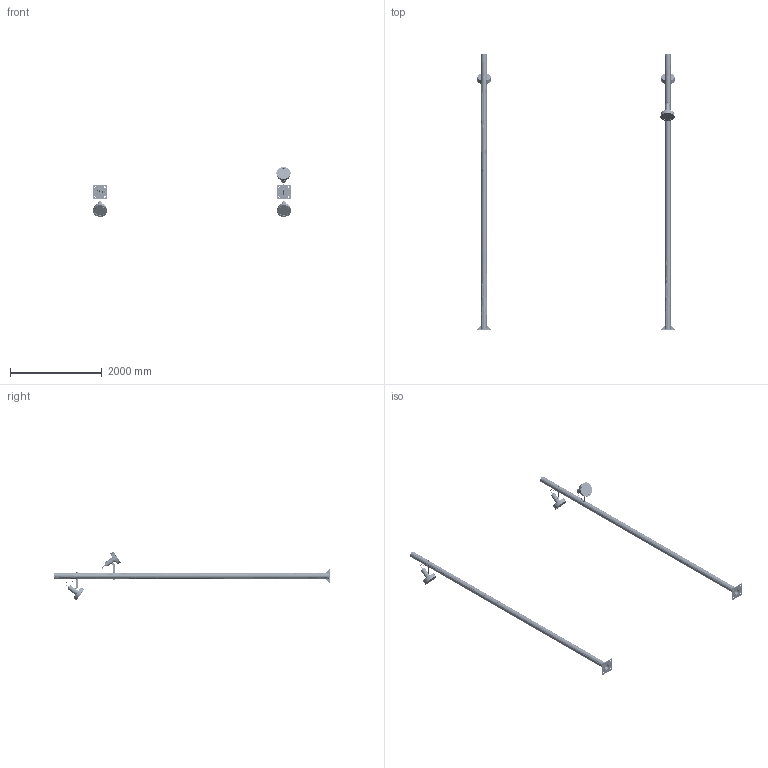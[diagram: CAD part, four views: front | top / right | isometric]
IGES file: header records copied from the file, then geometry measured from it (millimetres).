
Start section: SolidWorks IGES file using analytic representation for surfaces
Global section: file name: C:\SANTACOLE_PDM\Proyectos Catálogo\PROD-P12-019 -- ARNE PROYECTOR LED\6_Técnico comercial\3D WEB\IGES\Arne Columna 600cm 1S 1L-Columna 600cm 1S 2L.IGS; native system: SolidWorks 2013; preprocessor: SolidWorks 2013; author: jordi.munoz; date: 150513.141436; units: millimetre
Bounding box: 4310 x 6000 x 1081.89 mm (x, y, z)
Surface area: 12103513.5 mm2 (no closed solid volume)
Topology: 0 solids, 0 shells, 8906 faces, 79531 edges, 78999 vertices
Faces by surface type: bspline 6095, revolution 2811
